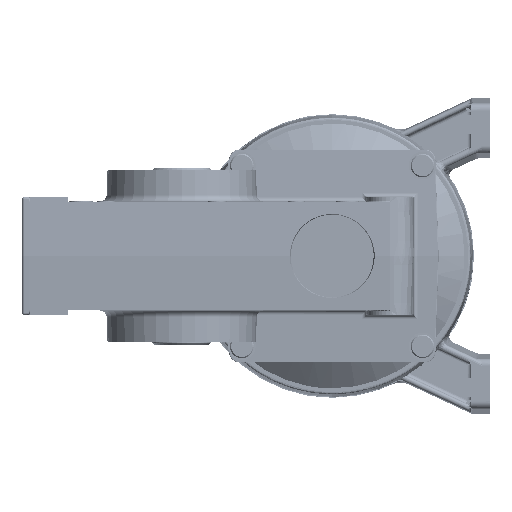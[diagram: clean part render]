
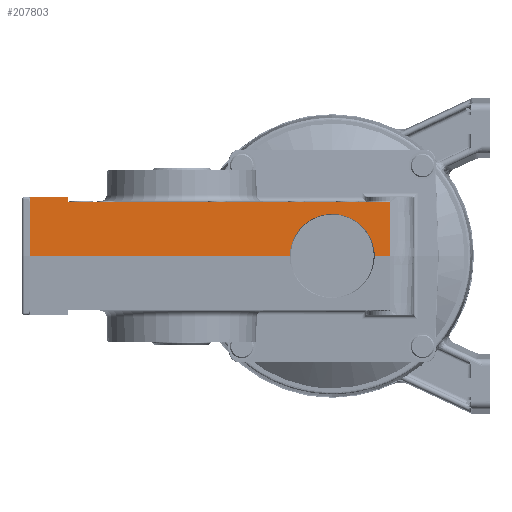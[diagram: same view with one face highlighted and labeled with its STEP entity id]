
A CAD part, left-side view. The second image highlights one B-rep face of the part: STEP entity #207803.
In plain terms, the highlighted planar face has unit normal (-0.999, 0, 0.035).
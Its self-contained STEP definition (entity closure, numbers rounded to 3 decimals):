
#2378 = LINE ( 'NONE', #30934, #184947 ) ;
#2844 = ORIENTED_EDGE ( 'NONE', *, *, #196627, .T. ) ;
#3010 = CARTESIAN_POINT ( 'NONE',  ( -108.786, 95.019, 167.585 ) ) ;
#5161 = VERTEX_POINT ( 'NONE', #184312 ) ;
#6762 = DIRECTION ( 'NONE',  ( 0., 1., 0. ) ) ;
#11534 = VERTEX_POINT ( 'NONE', #108132 ) ;
#14087 = LINE ( 'NONE', #211347, #121174 ) ;
#18413 = LINE ( 'NONE', #167590, #165673 ) ;
#18527 = EDGE_CURVE ( 'NONE', #54983, #59001, #173676, .T. ) ;
#21805 = CARTESIAN_POINT ( 'NONE',  ( -108.166, 129.746, 185.339 ) ) ;
#23647 =( BOUNDED_CURVE ( )  B_SPLINE_CURVE ( 3, ( #206966, #157743, #21805, #208027 ),
 .UNSPECIFIED., .F., .F. ) 
 B_SPLINE_CURVE_WITH_KNOTS ( ( 4, 4 ),
 ( 1.584, 3.142 ),
 .UNSPECIFIED. ) 
 CURVE ( )  GEOMETRIC_REPRESENTATION_ITEM ( )  RATIONAL_B_SPLINE_CURVE ( ( 1., 0.808, 0.808, 1. ) ) 
 REPRESENTATION_ITEM ( '' )  );
#25150 = EDGE_CURVE ( 'NONE', #151172, #27507, #2378, .T. ) ;
#27507 = VERTEX_POINT ( 'NONE', #66418 ) ;
#27693 = CARTESIAN_POINT ( 'NONE',  ( -107.987, 230.822, 190.489 ) ) ;
#28128 = CARTESIAN_POINT ( 'NONE',  ( -107.987, 230.919, 190.489 ) ) ;
#28476 = ORIENTED_EDGE ( 'NONE', *, *, #160909, .T. ) ;
#29593 = EDGE_CURVE ( 'NONE', #11534, #102233, #18413, .T. ) ;
#30784 = CARTESIAN_POINT ( 'NONE',  ( -108.786, 101.34, 167.585 ) ) ;
#30934 = CARTESIAN_POINT ( 'NONE',  ( -108.844, 230.158, 165.938 ) ) ;
#33784 = CARTESIAN_POINT ( 'NONE',  ( -108.786, 182.919, 167.585 ) ) ;
#34158 = CARTESIAN_POINT ( 'NONE',  ( -108.786, 246.919, 167.585 ) ) ;
#41921 = LINE ( 'NONE', #58399, #118930 ) ;
#42653 = ORIENTED_EDGE ( 'NONE', *, *, #25150, .T. ) ;
#43553 = DIRECTION ( 'NONE',  ( 0., 1., 0. ) ) ;
#44175 = CARTESIAN_POINT ( 'NONE',  ( -107.98, 231.022, 190.682 ) ) ;
#46611 = EDGE_CURVE ( 'NONE', #5161, #59001, #41921, .T. ) ;
#48599 = CARTESIAN_POINT ( 'NONE',  ( -107.917, 246.919, 192.489 ) ) ;
#48606 = CARTESIAN_POINT ( 'NONE',  ( -108.786, 101.34, 167.585 ) ) ;
#51329 = FACE_OUTER_BOUND ( 'NONE', #132432, .T. ) ;
#54983 = VERTEX_POINT ( 'NONE', #48599 ) ;
#58186 = ORIENTED_EDGE ( 'NONE', *, *, #46611, .F. ) ;
#58399 = CARTESIAN_POINT ( 'NONE',  ( -108.786, 182.919, 167.585 ) ) ;
#59001 = VERTEX_POINT ( 'NONE', #34158 ) ;
#59657 = CARTESIAN_POINT ( 'NONE',  ( -108.786, 246.919, 167.585 ) ) ;
#65178 = EDGE_CURVE ( 'NONE', #151172, #68770, #177429, .T. ) ;
#66418 = CARTESIAN_POINT ( 'NONE',  ( -107.917, 231.085, 192.489 ) ) ;
#66687 = LINE ( 'NONE', #3010, #171149 ) ;
#68770 = VERTEX_POINT ( 'NONE', #146701 ) ;
#83735 = CARTESIAN_POINT ( 'NONE',  ( -108.166, 108.892, 185.339 ) ) ;
#101942 = EDGE_CURVE ( 'NONE', #146814, #102233, #198459, .T. ) ;
#102233 = VERTEX_POINT ( 'NONE', #30784 ) ;
#103932 = PLANE ( 'NONE',  #138348 ) ;
#108132 = CARTESIAN_POINT ( 'NONE',  ( -108.786, 95.019, 167.585 ) ) ;
#110019 = CARTESIAN_POINT ( 'NONE',  ( -107.987, 230.936, 190.489 ) ) ;
#113002 = ORIENTED_EDGE ( 'NONE', *, *, #101942, .T. ) ;
#113889 = ORIENTED_EDGE ( 'NONE', *, *, #65178, .F. ) ;
#118930 = VECTOR ( 'NONE', #6762, 1000. ) ;
#121174 = VECTOR ( 'NONE', #199331, 1000. ) ;
#124188 = CARTESIAN_POINT ( 'NONE',  ( -107.987, 95.019, 190.489 ) ) ;
#129634 = EDGE_CURVE ( 'NONE', #11534, #178146, #66687, .T. ) ;
#132432 = EDGE_LOOP ( 'NONE', ( #58186, #28476, #113002, #167031, #152996, #2844, #113889, #42653, #180007, #212279 ) ) ;
#138348 = AXIS2_PLACEMENT_3D ( 'NONE', #33784, #169679, #193591 ) ;
#140708 = CARTESIAN_POINT ( 'NONE',  ( -107.984, 231.018, 190.568 ) ) ;
#142298 = LINE ( 'NONE', #28128, #213117 ) ;
#146701 = CARTESIAN_POINT ( 'NONE',  ( -107.987, 230.822, 190.489 ) ) ;
#146814 = VERTEX_POINT ( 'NONE', #205163 ) ;
#151172 = VERTEX_POINT ( 'NONE', #178199 ) ;
#152996 = ORIENTED_EDGE ( 'NONE', *, *, #129634, .T. ) ;
#157743 = CARTESIAN_POINT ( 'NONE',  ( -108.422, 137.166, 178.012 ) ) ;
#160909 = EDGE_CURVE ( 'NONE', #5161, #146814, #23647, .T. ) ;
#165673 = VECTOR ( 'NONE', #215696, 1000. ) ;
#167031 = ORIENTED_EDGE ( 'NONE', *, *, #29593, .F. ) ;
#167590 = CARTESIAN_POINT ( 'NONE',  ( -108.786, 182.919, 167.585 ) ) ;
#169164 = CARTESIAN_POINT ( 'NONE',  ( -108.422, 101.472, 178.012 ) ) ;
#169679 = DIRECTION ( 'NONE',  ( -0.999, 0., 0.035 ) ) ;
#171149 = VECTOR ( 'NONE', #204627, 1000. ) ;
#173676 = LINE ( 'NONE', #59657, #177479 ) ;
#177429 =( BOUNDED_CURVE ( )  B_SPLINE_CURVE ( 3, ( #44175, #140708, #110019, #27693 ),
 .UNSPECIFIED., .F., .F. ) 
 B_SPLINE_CURVE_WITH_KNOTS ( ( 4, 4 ),
 ( 1.606, 3.142 ),
 .UNSPECIFIED. ) 
 CURVE ( )  GEOMETRIC_REPRESENTATION_ITEM ( )  RATIONAL_B_SPLINE_CURVE ( ( 1., 0.813, 0.813, 1. ) ) 
 REPRESENTATION_ITEM ( '' )  );
#177479 = VECTOR ( 'NONE', #191132, 1000. ) ;
#178146 = VERTEX_POINT ( 'NONE', #124188 ) ;
#178199 = CARTESIAN_POINT ( 'NONE',  ( -107.98, 231.022, 190.682 ) ) ;
#180007 = ORIENTED_EDGE ( 'NONE', *, *, #183674, .T. ) ;
#183674 = EDGE_CURVE ( 'NONE', #27507, #54983, #14087, .T. ) ;
#184312 = CARTESIAN_POINT ( 'NONE',  ( -108.786, 137.298, 167.585 ) ) ;
#184947 = VECTOR ( 'NONE', #216087, 1000. ) ;
#191132 = DIRECTION ( 'NONE',  ( -0.035, 0., -0.999 ) ) ;
#193591 = DIRECTION ( 'NONE',  ( 0.035, 0., 0.999 ) ) ;
#196627 = EDGE_CURVE ( 'NONE', #178146, #68770, #142298, .T. ) ;
#198459 =( BOUNDED_CURVE ( )  B_SPLINE_CURVE ( 3, ( #199815, #83735, #169164, #48606 ),
 .UNSPECIFIED., .F., .T. ) 
 B_SPLINE_CURVE_WITH_KNOTS ( ( 4, 4 ),
 ( 3.142, 4.7 ),
 .UNSPECIFIED. ) 
 CURVE ( )  GEOMETRIC_REPRESENTATION_ITEM ( )  RATIONAL_B_SPLINE_CURVE ( ( 1., 0.808, 0.808, 1. ) ) 
 REPRESENTATION_ITEM ( '' )  );
#199331 = DIRECTION ( 'NONE',  ( 0., 1., 0. ) ) ;
#199815 = CARTESIAN_POINT ( 'NONE',  ( -108.166, 119.319, 185.339 ) ) ;
#204627 = DIRECTION ( 'NONE',  ( 0.035, 0., 0.999 ) ) ;
#205163 = CARTESIAN_POINT ( 'NONE',  ( -108.166, 119.319, 185.339 ) ) ;
#206966 = CARTESIAN_POINT ( 'NONE',  ( -108.786, 137.298, 167.585 ) ) ;
#207803 = ADVANCED_FACE ( 'NONE', ( #51329 ), #103932, .T. ) ;
#208027 = CARTESIAN_POINT ( 'NONE',  ( -108.166, 119.319, 185.339 ) ) ;
#211347 = CARTESIAN_POINT ( 'NONE',  ( -107.917, 246.919, 192.489 ) ) ;
#212279 = ORIENTED_EDGE ( 'NONE', *, *, #18527, .T. ) ;
#213117 = VECTOR ( 'NONE', #43553, 1000. ) ;
#215696 = DIRECTION ( 'NONE',  ( 0., 1., 0. ) ) ;
#216087 = DIRECTION ( 'NONE',  ( 0.035, 0.035, 0.999 ) ) ;
